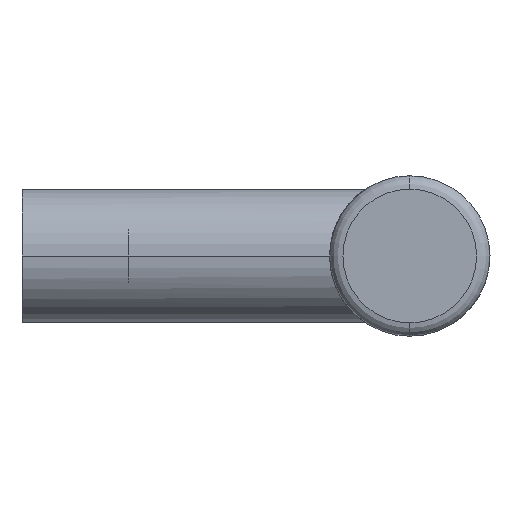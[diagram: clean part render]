
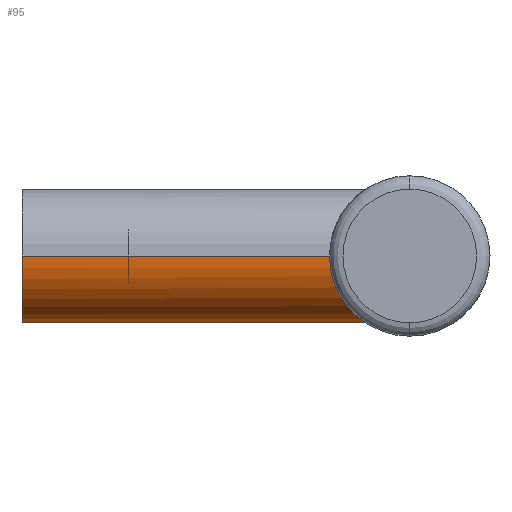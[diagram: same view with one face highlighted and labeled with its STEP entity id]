
A CAD part, left-side view. The second image highlights one B-rep face of the part: STEP entity #95.
In plain terms, the highlighted cylindrical face has radius 5 mm (diameter 10 mm), a partial arc.
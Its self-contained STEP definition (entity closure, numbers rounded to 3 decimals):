
#95 = ADVANCED_FACE( '', ( #146 ), #147, .T. );
#146 = FACE_OUTER_BOUND( '', #204, .T. );
#147 = CYLINDRICAL_SURFACE( '', #205, 5. );
#204 = EDGE_LOOP( '', ( #370, #371, #372, #373 ) );
#205 = AXIS2_PLACEMENT_3D( '', #374, #375, #376 );
#370 = ORIENTED_EDGE( '', *, *, #415, .T. );
#371 = ORIENTED_EDGE( '', *, *, #456, .F. );
#372 = ORIENTED_EDGE( '', *, *, #417, .T. );
#373 = ORIENTED_EDGE( '', *, *, #465, .F. );
#374 = CARTESIAN_POINT( '', ( 0., 0., 0. ) );
#375 = DIRECTION( '', ( 0., 1., 0. ) );
#376 = DIRECTION( '', ( 1., 0., 0. ) );
#415 = EDGE_CURVE( '', #477, #478, #479, .T. );
#417 = EDGE_CURVE( '', #482, #480, #483, .T. );
#456 = EDGE_CURVE( '', #482, #478, #552, .T. );
#465 = EDGE_CURVE( '', #477, #480, #561, .T. );
#477 = VERTEX_POINT( '', #609 );
#478 = VERTEX_POINT( '', #610 );
#479 = LINE( '', #611, #612 );
#480 = VERTEX_POINT( '', #613 );
#482 = VERTEX_POINT( '', #615 );
#483 = LINE( '', #616, #617 );
#552 = B_SPLINE_CURVE_WITH_KNOTS( '', 3, ( #797, #798, #799, #800, #801, #802, #803, #804, #805, #806, #807, #808, #809, #810, #811, #812, #813, #814, #815, #816, #817, #818, #819, #820, #821, #822, #823, #824, #825, #826, #827, #828, #829, #830 ), .UNSPECIFIED., .F., .F., ( 4, 2, 2, 2, 2, 2, 2, 2, 2, 2, 2, 2, 2, 2, 2, 2, 4 ), ( 8.161, 9.16, 10.159, 11.158, 12.157, 13.198, 14.239, 15.28, 16.322, 17.363, 18.404, 19.446, 20.487, 21.486, 22.485, 23.484, 24.483 ), .UNSPECIFIED. );
#561 = CIRCLE( '', #872, 5. );
#609 = CARTESIAN_POINT( '', ( 5., 0., 0. ) );
#610 = CARTESIAN_POINT( '', ( 5., -23., 0. ) );
#611 = CARTESIAN_POINT( '', ( 5., 0., 0. ) );
#612 = VECTOR( '', #879, 1. );
#613 = CARTESIAN_POINT( '', ( -5., 0., 0. ) );
#615 = CARTESIAN_POINT( '', ( -5., -23., 0. ) );
#616 = CARTESIAN_POINT( '', ( -5., 0., 0. ) );
#617 = VECTOR( '', #883, 1. );
#797 = CARTESIAN_POINT( '', ( -5., -23., 0. ) );
#798 = CARTESIAN_POINT( '', ( -5., -23., -0.333 ) );
#799 = CARTESIAN_POINT( '', ( -4.966, -23.028, -0.672 ) );
#800 = CARTESIAN_POINT( '', ( -4.83, -23.141, -1.335 ) );
#801 = CARTESIAN_POINT( '', ( -4.728, -23.225, -1.659 ) );
#802 = CARTESIAN_POINT( '', ( -4.467, -23.437, -2.272 ) );
#803 = CARTESIAN_POINT( '', ( -4.306, -23.566, -2.561 ) );
#804 = CARTESIAN_POINT( '', ( -3.946, -23.847, -3.088 ) );
#805 = CARTESIAN_POINT( '', ( -3.745, -24., -3.326 ) );
#806 = CARTESIAN_POINT( '', ( -3.317, -24.311, -3.754 ) );
#807 = CARTESIAN_POINT( '', ( -3.073, -24.483, -3.957 ) );
#808 = CARTESIAN_POINT( '', ( -2.544, -24.825, -4.316 ) );
#809 = CARTESIAN_POINT( '', ( -2.259, -24.995, -4.472 ) );
#810 = CARTESIAN_POINT( '', ( -1.659, -25.301, -4.728 ) );
#811 = CARTESIAN_POINT( '', ( -1.343, -25.436, -4.828 ) );
#812 = CARTESIAN_POINT( '', ( -0.687, -25.627, -4.964 ) );
#813 = CARTESIAN_POINT( '', ( -0.347, -25.683, -5. ) );
#814 = CARTESIAN_POINT( '', ( 0.347, -25.683, -5. ) );
#815 = CARTESIAN_POINT( '', ( 0.687, -25.627, -4.964 ) );
#816 = CARTESIAN_POINT( '', ( 1.343, -25.436, -4.828 ) );
#817 = CARTESIAN_POINT( '', ( 1.659, -25.301, -4.728 ) );
#818 = CARTESIAN_POINT( '', ( 2.259, -24.995, -4.472 ) );
#819 = CARTESIAN_POINT( '', ( 2.544, -24.825, -4.316 ) );
#820 = CARTESIAN_POINT( '', ( 3.073, -24.483, -3.957 ) );
#821 = CARTESIAN_POINT( '', ( 3.317, -24.311, -3.754 ) );
#822 = CARTESIAN_POINT( '', ( 3.745, -24., -3.326 ) );
#823 = CARTESIAN_POINT( '', ( 3.946, -23.847, -3.088 ) );
#824 = CARTESIAN_POINT( '', ( 4.306, -23.566, -2.561 ) );
#825 = CARTESIAN_POINT( '', ( 4.467, -23.437, -2.272 ) );
#826 = CARTESIAN_POINT( '', ( 4.728, -23.225, -1.659 ) );
#827 = CARTESIAN_POINT( '', ( 4.83, -23.141, -1.335 ) );
#828 = CARTESIAN_POINT( '', ( 4.966, -23.028, -0.672 ) );
#829 = CARTESIAN_POINT( '', ( 5., -23., -0.333 ) );
#830 = CARTESIAN_POINT( '', ( 5., -23., 0. ) );
#872 = AXIS2_PLACEMENT_3D( '', #984, #985, #986 );
#879 = DIRECTION( '', ( 0., -1., 0. ) );
#883 = DIRECTION( '', ( 0., 1., 0. ) );
#984 = CARTESIAN_POINT( '', ( 0., 0., 0. ) );
#985 = DIRECTION( '', ( 0., 1., 0. ) );
#986 = DIRECTION( '', ( 1., 0., 0. ) );
